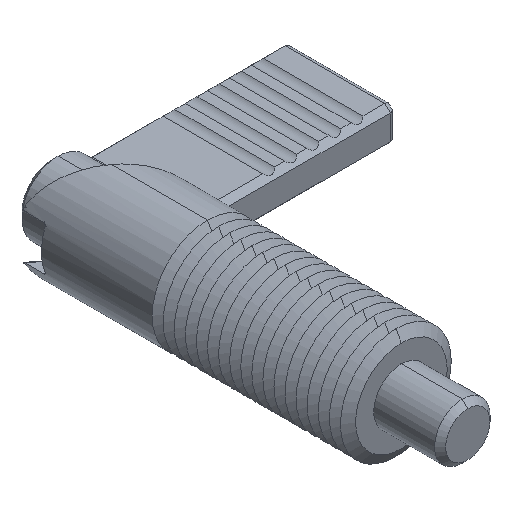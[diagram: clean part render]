
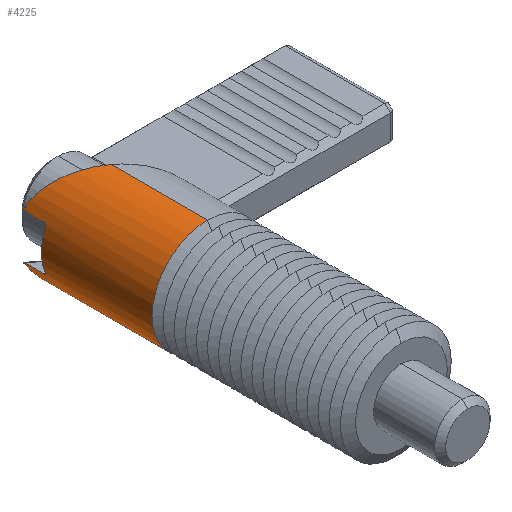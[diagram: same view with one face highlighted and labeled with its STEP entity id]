
A CAD part, isometric view. The second image highlights one B-rep face of the part: STEP entity #4225.
In plain terms, the highlighted cylindrical face has radius 5 mm (diameter 10 mm), a partial arc.
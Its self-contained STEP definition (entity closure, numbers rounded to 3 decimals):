
#1751 = CARTESIAN_POINT ( 'NONE',  ( 0., 26.2, 5. ) ) ;
#1833 = CARTESIAN_POINT ( 'NONE',  ( 0., 26.2, -5. ) ) ;
#1834 = DIRECTION ( 'NONE',  ( 0., -1., 0. ) ) ;
#1835 = VECTOR ( 'NONE', #1834, 1000. ) ;
#1842 = CARTESIAN_POINT ( 'NONE',  ( 0., 0., -5. ) ) ;
#1843 = LINE ( 'NONE', #1842, #1835 ) ;
#1854 = DIRECTION ( 'NONE',  ( 0., -1., 0. ) ) ;
#1855 = VECTOR ( 'NONE', #1854, 1000. ) ;
#1856 = CARTESIAN_POINT ( 'NONE',  ( 0., 0., 5. ) ) ;
#1857 = LINE ( 'NONE', #1856, #1855 ) ;
#2424 = CARTESIAN_POINT ( 'NONE',  ( 0., 17.5, -5. ) ) ;
#2425 = CARTESIAN_POINT ( 'NONE',  ( 0., 17.5, 5. ) ) ;
#2555 = CARTESIAN_POINT ( 'NONE',  ( -4.49, 29.567, -2.2 ) ) ;
#2556 = CARTESIAN_POINT ( 'NONE',  ( -4.502, 29.576, -2.176 ) ) ;
#2690 = CARTESIAN_POINT ( 'NONE',  ( -4.49, 29.567, 2.2 ) ) ;
#2702 = CARTESIAN_POINT ( 'NONE',  ( -4.49, 29.567, 2.2 ) ) ;
#2703 = CARTESIAN_POINT ( 'NONE',  ( -3.627, 28.92, 3.962 ) ) ;
#2704 = CARTESIAN_POINT ( 'NONE',  ( -1.962, 27.671, 5. ) ) ;
#2705 = CARTESIAN_POINT ( 'NONE',  ( 0., 26.2, 5. ) ) ;
#2706 =( BOUNDED_CURVE ( )  B_SPLINE_CURVE ( 3, ( #2705, #2704, #2703, #2702 ),
 .UNSPECIFIED., .F., .T. ) 
 B_SPLINE_CURVE_WITH_KNOTS ( ( 4, 4 ),
 ( 1.571, 2.686 ),
 .UNSPECIFIED. ) 
 CURVE ( )  GEOMETRIC_REPRESENTATION_ITEM ( )  RATIONAL_B_SPLINE_CURVE ( ( 1., 0.899, 0.899, 1. ) ) 
 REPRESENTATION_ITEM ( '' )  );
#2721 = CARTESIAN_POINT ( 'NONE',  ( -4.583, 27.7, 2. ) ) ;
#2722 = CARTESIAN_POINT ( 'NONE',  ( -4.49, 29.567, -2.2 ) ) ;
#2727 = CARTESIAN_POINT ( 'NONE',  ( -4.665, 27.5, 1.8 ) ) ;
#2728 = CARTESIAN_POINT ( 'NONE',  ( -4.645, 27.5, 1.851 ) ) ;
#2729 = CARTESIAN_POINT ( 'NONE',  ( -4.624, 27.52, 1.902 ) ) ;
#2730 = CARTESIAN_POINT ( 'NONE',  ( -4.593, 27.592, 1.976 ) ) ;
#2731 = CARTESIAN_POINT ( 'NONE',  ( -4.583, 27.645, 2. ) ) ;
#2732 = CARTESIAN_POINT ( 'NONE',  ( -4.583, 27.7, 2. ) ) ;
#2735 = CARTESIAN_POINT ( 'NONE',  ( -4.665, 27.5, 1.8 ) ) ;
#2736 = B_SPLINE_CURVE_WITH_KNOTS ( 'NONE', 3,
 ( #2732, #2731, #2730, #2729, #2728, #2727 ),
 .UNSPECIFIED., .F., .F.,
 ( 4, 2, 4 ),
 ( 0., 0., 0. ),
 .UNSPECIFIED. ) ;
#2737 = CARTESIAN_POINT ( 'NONE',  ( -4.665, 27.5, -1.8 ) ) ;
#2746 =( BOUNDED_CURVE ( )  B_SPLINE_CURVE ( 3, ( #2795, #2794, #2793, #2792 ),
 .UNSPECIFIED., .F., .T. ) 
 B_SPLINE_CURVE_WITH_KNOTS ( ( 4, 4 ),
 ( 3.597, 4.712 ),
 .UNSPECIFIED. ) 
 CURVE ( )  GEOMETRIC_REPRESENTATION_ITEM ( )  RATIONAL_B_SPLINE_CURVE ( ( 1., 0.899, 0.899, 1. ) ) 
 REPRESENTATION_ITEM ( '' )  );
#2753 = DIRECTION ( 'NONE',  ( 0., 0., -1. ) ) ;
#2754 = DIRECTION ( 'NONE',  ( 0., -1., 0. ) ) ;
#2755 = AXIS2_PLACEMENT_3D ( 'NONE', #2757, #2754, #2753 ) ;
#2756 = CARTESIAN_POINT ( 'NONE',  ( -4.583, 29.387, 2. ) ) ;
#2757 = CARTESIAN_POINT ( 'NONE',  ( 0., 0., 0. ) ) ;
#2758 = CYLINDRICAL_SURFACE ( 'NONE', #2755, 5. ) ;
#2759 = FACE_OUTER_BOUND ( 'NONE', #4176, .T. ) ;
#2760 = DIRECTION ( 'NONE',  ( 0., -1., 0. ) ) ;
#2761 = VECTOR ( 'NONE', #2760, 1000. ) ;
#2762 = CARTESIAN_POINT ( 'NONE',  ( -4.583, 0., 2. ) ) ;
#2763 = LINE ( 'NONE', #2762, #2761 ) ;
#2764 = CARTESIAN_POINT ( 'NONE',  ( -4.583, 29.387, 2. ) ) ;
#2765 = CARTESIAN_POINT ( 'NONE',  ( -4.583, 29.444, 2. ) ) ;
#2766 = CARTESIAN_POINT ( 'NONE',  ( -4.576, 29.503, 2.016 ) ) ;
#2767 = CARTESIAN_POINT ( 'NONE',  ( -4.54, 29.579, 2.094 ) ) ;
#2768 = CARTESIAN_POINT ( 'NONE',  ( -4.514, 29.585, 2.151 ) ) ;
#2769 = CARTESIAN_POINT ( 'NONE',  ( -4.49, 29.567, 2.2 ) ) ;
#2770 = B_SPLINE_CURVE_WITH_KNOTS ( 'NONE', 3,
 ( #2769, #2768, #2767, #2766, #2765, #2764 ),
 .UNSPECIFIED., .F., .F.,
 ( 4, 2, 4 ),
 ( 0., 0., 0. ),
 .UNSPECIFIED. ) ;
#2773 = CARTESIAN_POINT ( 'NONE',  ( -4.514, 29.58, -2.15 ) ) ;
#2774 = CARTESIAN_POINT ( 'NONE',  ( -4.538, 29.572, -2.099 ) ) ;
#2775 = CARTESIAN_POINT ( 'NONE',  ( -4.55, 29.56, -2.074 ) ) ;
#2776 = CARTESIAN_POINT ( 'NONE',  ( -4.576, 29.503, -2.016 ) ) ;
#2777 = CARTESIAN_POINT ( 'NONE',  ( -4.583, 29.444, -2. ) ) ;
#2778 = CARTESIAN_POINT ( 'NONE',  ( -4.583, 29.387, -2. ) ) ;
#2781 = B_SPLINE_CURVE_WITH_KNOTS ( 'NONE', 3,
 ( #2778, #2777, #2776, #2775, #2774, #2773, #2556, #2555 ),
 .UNSPECIFIED., .F., .F.,
 ( 4, 2, 2, 4 ),
 ( 0., 0., 0., 0. ),
 .UNSPECIFIED. ) ;
#2782 = CARTESIAN_POINT ( 'NONE',  ( -4.583, 29.387, -2. ) ) ;
#2792 = CARTESIAN_POINT ( 'NONE',  ( 0., 26.2, -5. ) ) ;
#2793 = CARTESIAN_POINT ( 'NONE',  ( -1.962, 27.671, -5. ) ) ;
#2794 = CARTESIAN_POINT ( 'NONE',  ( -3.627, 28.92, -3.962 ) ) ;
#2795 = CARTESIAN_POINT ( 'NONE',  ( -4.49, 29.567, -2.2 ) ) ;
#2796 = CARTESIAN_POINT ( 'NONE',  ( -4.583, 27.7, -2. ) ) ;
#2797 = DIRECTION ( 'NONE',  ( 0., 0., -1. ) ) ;
#2798 = DIRECTION ( 'NONE',  ( 0., -1., 0. ) ) ;
#2799 = CARTESIAN_POINT ( 'NONE',  ( 0., 27.5, 0. ) ) ;
#2800 = AXIS2_PLACEMENT_3D ( 'NONE', #2799, #2798, #2797 ) ;
#2801 = CIRCLE ( 'NONE', #2800, 5. ) ;
#2802 = DIRECTION ( 'NONE',  ( 0., 1., 0. ) ) ;
#2803 = VECTOR ( 'NONE', #2802, 1000. ) ;
#2804 = CARTESIAN_POINT ( 'NONE',  ( -4.583, 0., -2. ) ) ;
#2805 = LINE ( 'NONE', #2804, #2803 ) ;
#2850 = CARTESIAN_POINT ( 'NONE',  ( -4.583, 27.7, -2. ) ) ;
#2851 = CARTESIAN_POINT ( 'NONE',  ( -4.583, 27.645, -2. ) ) ;
#2852 = CARTESIAN_POINT ( 'NONE',  ( -4.593, 27.592, -1.976 ) ) ;
#2853 = CARTESIAN_POINT ( 'NONE',  ( -4.625, 27.52, -1.901 ) ) ;
#2854 = CARTESIAN_POINT ( 'NONE',  ( -4.645, 27.5, -1.851 ) ) ;
#2855 = CARTESIAN_POINT ( 'NONE',  ( -4.665, 27.5, -1.8 ) ) ;
#2857 = B_SPLINE_CURVE_WITH_KNOTS ( 'NONE', 3,
 ( #2855, #2854, #2853, #2852, #2851, #2850 ),
 .UNSPECIFIED., .F., .F.,
 ( 4, 2, 4 ),
 ( 0., 0., 0. ),
 .UNSPECIFIED. ) ;
#2862 = DIRECTION ( 'NONE',  ( 0., 0., -1. ) ) ;
#2863 = DIRECTION ( 'NONE',  ( 0., -1., 0. ) ) ;
#2864 = CARTESIAN_POINT ( 'NONE',  ( 0., 17.5, 0. ) ) ;
#2865 = AXIS2_PLACEMENT_3D ( 'NONE', #2864, #2863, #2862 ) ;
#2866 = CIRCLE ( 'NONE', #2865, 5. ) ;
#3689 = VERTEX_POINT ( 'NONE', #1751 ) ;
#3735 = EDGE_CURVE ( 'NONE', #3737, #4008, #1843, .T. ) ;
#3737 = VERTEX_POINT ( 'NONE', #1833 ) ;
#3746 = EDGE_CURVE ( 'NONE', #3689, #4006, #1857, .T. ) ;
#4006 = VERTEX_POINT ( 'NONE', #2425 ) ;
#4008 = VERTEX_POINT ( 'NONE', #2424 ) ;
#4176 = EDGE_LOOP ( 'NONE', ( #4224, #4223, #4226, #4228, #4209, #4263, #4256, #4250, #4240, #4233, #4297, #4295 ) ) ;
#4180 = VERTEX_POINT ( 'NONE', #2690 ) ;
#4197 = EDGE_CURVE ( 'NONE', #3689, #4180, #2706, .T. ) ;
#4209 = ORIENTED_EDGE ( 'NONE', *, *, #4211, .T. ) ;
#4210 = VERTEX_POINT ( 'NONE', #2737 ) ;
#4211 = EDGE_CURVE ( 'NONE', #4217, #4212, #2736, .T. ) ;
#4212 = VERTEX_POINT ( 'NONE', #2735 ) ;
#4214 = VERTEX_POINT ( 'NONE', #2722 ) ;
#4217 = VERTEX_POINT ( 'NONE', #2721 ) ;
#4221 = EDGE_CURVE ( 'NONE', #4180, #4227, #2770, .T. ) ;
#4222 = EDGE_CURVE ( 'NONE', #4227, #4217, #2763, .T. ) ;
#4223 = ORIENTED_EDGE ( 'NONE', *, *, #4197, .T. ) ;
#4224 = ORIENTED_EDGE ( 'NONE', *, *, #3746, .F. ) ;
#4225 = ADVANCED_FACE ( 'NONE', ( #2759 ), #2758, .T. ) ;
#4226 = ORIENTED_EDGE ( 'NONE', *, *, #4221, .T. ) ;
#4227 = VERTEX_POINT ( 'NONE', #2756 ) ;
#4228 = ORIENTED_EDGE ( 'NONE', *, *, #4222, .T. ) ;
#4232 = EDGE_CURVE ( 'NONE', #4214, #3737, #2746, .T. ) ;
#4233 = ORIENTED_EDGE ( 'NONE', *, *, #4232, .T. ) ;
#4240 = ORIENTED_EDGE ( 'NONE', *, *, #4241, .T. ) ;
#4241 = EDGE_CURVE ( 'NONE', #4244, #4214, #2781, .T. ) ;
#4244 = VERTEX_POINT ( 'NONE', #2782 ) ;
#4250 = ORIENTED_EDGE ( 'NONE', *, *, #4255, .T. ) ;
#4255 = EDGE_CURVE ( 'NONE', #4258, #4244, #2805, .T. ) ;
#4256 = ORIENTED_EDGE ( 'NONE', *, *, #4259, .T. ) ;
#4257 = EDGE_CURVE ( 'NONE', #4212, #4210, #2801, .T. ) ;
#4258 = VERTEX_POINT ( 'NONE', #2796 ) ;
#4259 = EDGE_CURVE ( 'NONE', #4210, #4258, #2857, .T. ) ;
#4263 = ORIENTED_EDGE ( 'NONE', *, *, #4257, .T. ) ;
#4292 = EDGE_CURVE ( 'NONE', #4006, #4008, #2866, .T. ) ;
#4295 = ORIENTED_EDGE ( 'NONE', *, *, #4292, .F. ) ;
#4297 = ORIENTED_EDGE ( 'NONE', *, *, #3735, .T. ) ;
